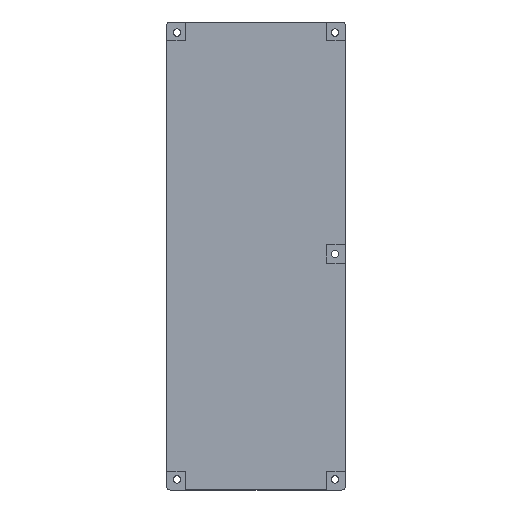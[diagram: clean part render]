
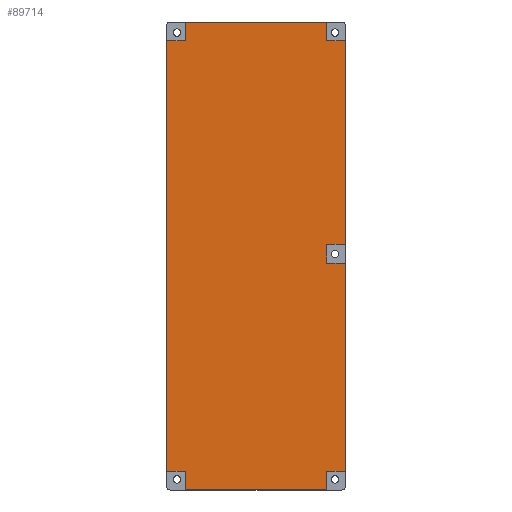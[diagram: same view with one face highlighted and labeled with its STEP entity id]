
A CAD part, front view. The second image highlights one B-rep face of the part: STEP entity #89714.
In plain terms, the highlighted planar face has unit normal (0, -1, 0).
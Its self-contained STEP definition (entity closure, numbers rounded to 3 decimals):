
#12351 = DIRECTION ( 'NONE',  ( 0., 0., -1. ) ) ;
#12353 = DIRECTION ( 'NONE',  ( 0., -1., 0. ) ) ;
#12357 = AXIS2_PLACEMENT_3D ( 'NONE', #12363, #12353, #12351 ) ;
#12363 = CARTESIAN_POINT ( 'NONE',  ( -84.9, -8., -0.1 ) ) ;
#82784 = CARTESIAN_POINT ( 'NONE',  ( -9., -8., -114.5 ) ) ;
#82838 = LINE ( 'NONE', #82973, #82971 ) ;
#82844 = CARTESIAN_POINT ( 'NONE',  ( -0.1, -8., -9. ) ) ;
#82905 = DIRECTION ( 'NONE',  ( 0., 0., 1. ) ) ;
#82906 = VECTOR ( 'NONE', #82905, 1000. ) ;
#82908 = CARTESIAN_POINT ( 'NONE',  ( -9., -8., -0.1 ) ) ;
#82909 = LINE ( 'NONE', #82908, #82906 ) ;
#82969 = DIRECTION ( 'NONE',  ( 0., 0., 1. ) ) ;
#82971 = VECTOR ( 'NONE', #82969, 1000. ) ;
#82973 = CARTESIAN_POINT ( 'NONE',  ( -0.1, -8., -0.1 ) ) ;
#82977 = CARTESIAN_POINT ( 'NONE',  ( -76., -8., -0.1 ) ) ;
#83087 = DIRECTION ( 'NONE',  ( 0., 0., -1. ) ) ;
#83088 = VECTOR ( 'NONE', #83087, 1000. ) ;
#83089 = CARTESIAN_POINT ( 'NONE',  ( -76., -8., -0.1 ) ) ;
#83090 = LINE ( 'NONE', #83089, #83088 ) ;
#83095 = DIRECTION ( 'NONE',  ( -1., 0., 0. ) ) ;
#83097 = VECTOR ( 'NONE', #83095, 1000. ) ;
#83098 = CARTESIAN_POINT ( 'NONE',  ( -84.9, -8., -0.1 ) ) ;
#83100 = LINE ( 'NONE', #83098, #83097 ) ;
#83150 = DIRECTION ( 'NONE',  ( -1., 0., 0. ) ) ;
#83151 = VECTOR ( 'NONE', #83150, 1000. ) ;
#83153 = CARTESIAN_POINT ( 'NONE',  ( -84.9, -8., -9. ) ) ;
#83155 = LINE ( 'NONE', #83153, #83151 ) ;
#83160 = CARTESIAN_POINT ( 'NONE',  ( -84.9, -8., -9. ) ) ;
#83306 = DIRECTION ( 'NONE',  ( -1., 0., 0. ) ) ;
#83308 = VECTOR ( 'NONE', #83306, 1000. ) ;
#83310 = CARTESIAN_POINT ( 'NONE',  ( -84.9, -8., -9. ) ) ;
#83311 = LINE ( 'NONE', #83310, #83308 ) ;
#83317 = CARTESIAN_POINT ( 'NONE',  ( -9., -8., -9. ) ) ;
#83383 = CARTESIAN_POINT ( 'NONE',  ( -9., -8., -0.1 ) ) ;
#83487 = DIRECTION ( 'NONE',  ( 1., 0., 0. ) ) ;
#83489 = VECTOR ( 'NONE', #83487, 1000. ) ;
#83491 = CARTESIAN_POINT ( 'NONE',  ( -84.9, -8., -213. ) ) ;
#83492 = LINE ( 'NONE', #83491, #83489 ) ;
#83554 = DIRECTION ( 'NONE',  ( 0., 0., -1. ) ) ;
#83556 = VECTOR ( 'NONE', #83554, 1000. ) ;
#83557 = CARTESIAN_POINT ( 'NONE',  ( -76., -8., -0.1 ) ) ;
#83559 = LINE ( 'NONE', #83557, #83556 ) ;
#83564 = CARTESIAN_POINT ( 'NONE',  ( -76., -8., -221.9 ) ) ;
#83752 = CARTESIAN_POINT ( 'NONE',  ( -76., -8., -213. ) ) ;
#83806 = CARTESIAN_POINT ( 'NONE',  ( -9., -8., -105.5 ) ) ;
#83808 = DIRECTION ( 'NONE',  ( 1., 0., 0. ) ) ;
#83809 = VECTOR ( 'NONE', #83808, 1000. ) ;
#83811 = CARTESIAN_POINT ( 'NONE',  ( -84.9, -8., -105.5 ) ) ;
#83813 = LINE ( 'NONE', #83811, #83809 ) ;
#83817 = CARTESIAN_POINT ( 'NONE',  ( -0.1, -8., -105.5 ) ) ;
#84003 = DIRECTION ( 'NONE',  ( 1., 0., 0. ) ) ;
#84005 = VECTOR ( 'NONE', #84003, 1000. ) ;
#84007 = CARTESIAN_POINT ( 'NONE',  ( -84.9, -8., -221.9 ) ) ;
#84008 = LINE ( 'NONE', #84007, #84005 ) ;
#84013 = CARTESIAN_POINT ( 'NONE',  ( -9., -8., -221.9 ) ) ;
#84073 = CARTESIAN_POINT ( 'NONE',  ( -9., -8., -213. ) ) ;
#84140 = CARTESIAN_POINT ( 'NONE',  ( -76., -8., -9. ) ) ;
#84141 = DIRECTION ( 'NONE',  ( 0., 0., -1. ) ) ;
#84143 = VECTOR ( 'NONE', #84141, 1000. ) ;
#84144 = CARTESIAN_POINT ( 'NONE',  ( -84.9, -8., -0.1 ) ) ;
#84145 = LINE ( 'NONE', #84144, #84143 ) ;
#84151 = CARTESIAN_POINT ( 'NONE',  ( -84.9, -8., -213. ) ) ;
#85771 = DIRECTION ( 'NONE',  ( -1., 0., 0. ) ) ;
#85773 = VECTOR ( 'NONE', #85771, 1000. ) ;
#85775 = CARTESIAN_POINT ( 'NONE',  ( -84.9, -8., -114.5 ) ) ;
#85778 = LINE ( 'NONE', #85775, #85773 ) ;
#85801 = DIRECTION ( 'NONE',  ( 0., 0., 1. ) ) ;
#85803 = VECTOR ( 'NONE', #85801, 1000. ) ;
#85804 = CARTESIAN_POINT ( 'NONE',  ( -9., -8., -0.1 ) ) ;
#85806 = LINE ( 'NONE', #85804, #85803 ) ;
#85810 = DIRECTION ( 'NONE',  ( 0., 0., 1. ) ) ;
#85812 = VECTOR ( 'NONE', #85810, 1000. ) ;
#85813 = CARTESIAN_POINT ( 'NONE',  ( -9., -8., -0.1 ) ) ;
#85815 = LINE ( 'NONE', #85813, #85812 ) ;
#85819 = CARTESIAN_POINT ( 'NONE',  ( -0.1, -8., -213. ) ) ;
#86750 = PLANE ( 'NONE',  #12357 ) ;
#86791 = FACE_OUTER_BOUND ( 'NONE', #89715, .T. ) ;
#86793 = DIRECTION ( 'NONE',  ( 1., 0., 0. ) ) ;
#86795 = VECTOR ( 'NONE', #86793, 1000. ) ;
#86796 = CARTESIAN_POINT ( 'NONE',  ( -84.9, -8., -213. ) ) ;
#86798 = LINE ( 'NONE', #86796, #86795 ) ;
#86859 = DIRECTION ( 'NONE',  ( 0., 0., 1. ) ) ;
#86860 = VECTOR ( 'NONE', #86859, 1000. ) ;
#86862 = CARTESIAN_POINT ( 'NONE',  ( -0.1, -8., -0.1 ) ) ;
#86863 = LINE ( 'NONE', #86862, #86860 ) ;
#86868 = CARTESIAN_POINT ( 'NONE',  ( -0.1, -8., -114.5 ) ) ;
#89100 = VERTEX_POINT ( 'NONE', #82784 ) ;
#89108 = VERTEX_POINT ( 'NONE', #82844 ) ;
#89110 = EDGE_CURVE ( 'NONE', #89241, #89108, #82838, .T. ) ;
#89119 = EDGE_CURVE ( 'NONE', #89173, #89182, #82909, .T. ) ;
#89126 = VERTEX_POINT ( 'NONE', #82977 ) ;
#89128 = EDGE_CURVE ( 'NONE', #89182, #89126, #83100, .T. ) ;
#89132 = EDGE_CURVE ( 'NONE', #89126, #89282, #83090, .T. ) ;
#89139 = VERTEX_POINT ( 'NONE', #83160 ) ;
#89141 = EDGE_CURVE ( 'NONE', #89282, #89139, #83155, .T. ) ;
#89173 = VERTEX_POINT ( 'NONE', #83317 ) ;
#89175 = EDGE_CURVE ( 'NONE', #89108, #89173, #83311, .T. ) ;
#89182 = VERTEX_POINT ( 'NONE', #83383 ) ;
#89191 = EDGE_CURVE ( 'NONE', #89279, #89235, #83492, .T. ) ;
#89198 = VERTEX_POINT ( 'NONE', #83564 ) ;
#89200 = EDGE_CURVE ( 'NONE', #89235, #89198, #83559, .T. ) ;
#89235 = VERTEX_POINT ( 'NONE', #83752 ) ;
#89241 = VERTEX_POINT ( 'NONE', #83817 ) ;
#89243 = EDGE_CURVE ( 'NONE', #89244, #89241, #83813, .T. ) ;
#89244 = VERTEX_POINT ( 'NONE', #83806 ) ;
#89265 = VERTEX_POINT ( 'NONE', #84013 ) ;
#89267 = EDGE_CURVE ( 'NONE', #89198, #89265, #84008, .T. ) ;
#89272 = VERTEX_POINT ( 'NONE', #84073 ) ;
#89279 = VERTEX_POINT ( 'NONE', #84151 ) ;
#89281 = EDGE_CURVE ( 'NONE', #89139, #89279, #84145, .T. ) ;
#89282 = VERTEX_POINT ( 'NONE', #84140 ) ;
#89543 = VERTEX_POINT ( 'NONE', #85819 ) ;
#89546 = ORIENTED_EDGE ( 'NONE', *, *, #89703, .T. ) ;
#89547 = ORIENTED_EDGE ( 'NONE', *, *, #89719, .T. ) ;
#89550 = EDGE_CURVE ( 'NONE', #89265, #89272, #85815, .T. ) ;
#89555 = EDGE_CURVE ( 'NONE', #89100, #89244, #85806, .T. ) ;
#89564 = EDGE_CURVE ( 'NONE', #89717, #89100, #85778, .T. ) ;
#89693 = ORIENTED_EDGE ( 'NONE', *, *, #89564, .T. ) ;
#89694 = ORIENTED_EDGE ( 'NONE', *, *, #89555, .T. ) ;
#89695 = ORIENTED_EDGE ( 'NONE', *, *, #89243, .T. ) ;
#89697 = ORIENTED_EDGE ( 'NONE', *, *, #89110, .T. ) ;
#89698 = ORIENTED_EDGE ( 'NONE', *, *, #89175, .T. ) ;
#89699 = ORIENTED_EDGE ( 'NONE', *, *, #89119, .T. ) ;
#89703 = EDGE_CURVE ( 'NONE', #89272, #89543, #86798, .T. ) ;
#89704 = ORIENTED_EDGE ( 'NONE', *, *, #89128, .T. ) ;
#89705 = ORIENTED_EDGE ( 'NONE', *, *, #89132, .T. ) ;
#89706 = ORIENTED_EDGE ( 'NONE', *, *, #89141, .T. ) ;
#89707 = ORIENTED_EDGE ( 'NONE', *, *, #89281, .T. ) ;
#89708 = ORIENTED_EDGE ( 'NONE', *, *, #89191, .T. ) ;
#89709 = ORIENTED_EDGE ( 'NONE', *, *, #89200, .T. ) ;
#89710 = ORIENTED_EDGE ( 'NONE', *, *, #89267, .T. ) ;
#89711 = ORIENTED_EDGE ( 'NONE', *, *, #89550, .T. ) ;
#89714 = ADVANCED_FACE ( 'NONE', ( #86791 ), #86750, .T. ) ;
#89715 = EDGE_LOOP ( 'NONE', ( #89693, #89694, #89695, #89697, #89698, #89699, #89704, #89705, #89706, #89707, #89708, #89709, #89710, #89711, #89546, #89547 ) ) ;
#89717 = VERTEX_POINT ( 'NONE', #86868 ) ;
#89719 = EDGE_CURVE ( 'NONE', #89543, #89717, #86863, .T. ) ;
